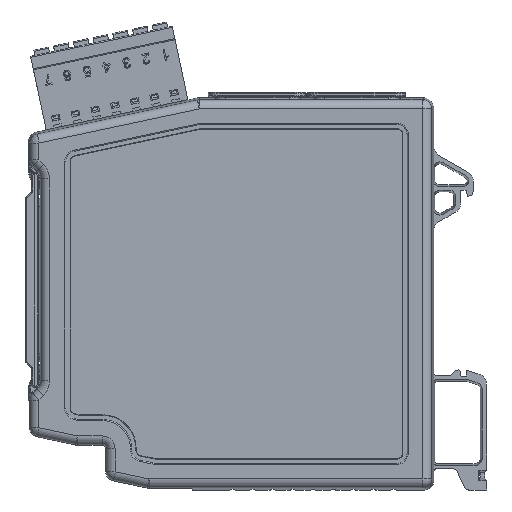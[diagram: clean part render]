
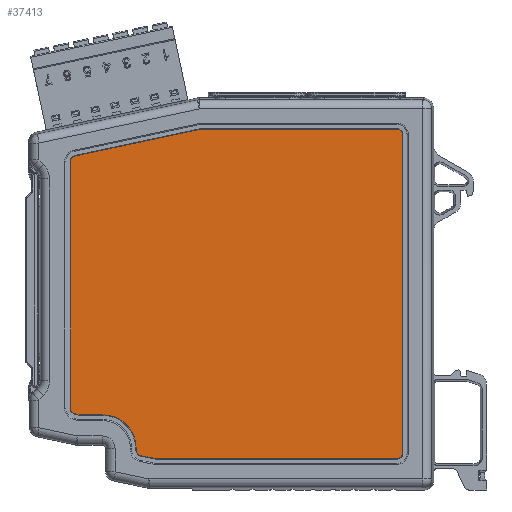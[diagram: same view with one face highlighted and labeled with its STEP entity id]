
A CAD part, front view. The second image highlights one B-rep face of the part: STEP entity #37413.
In plain terms, the highlighted planar face has unit normal (0, -1, 0).
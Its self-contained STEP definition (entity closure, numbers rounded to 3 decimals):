
#744=PLANE('',#43915);
#3310=LINE('',#64436,#7519);
#3311=LINE('',#64441,#7520);
#3314=LINE('',#64460,#7523);
#3315=LINE('',#64465,#7524);
#3318=LINE('',#64484,#7527);
#3319=LINE('',#64489,#7528);
#3322=LINE('',#64508,#7531);
#3323=LINE('',#64513,#7532);
#3325=LINE('',#64528,#7534);
#7519=VECTOR('',#49437,1000.);
#7520=VECTOR('',#49442,1000.);
#7523=VECTOR('',#49465,1000.);
#7524=VECTOR('',#49470,1000.);
#7527=VECTOR('',#49493,1000.);
#7528=VECTOR('',#49498,1000.);
#7531=VECTOR('',#49521,1000.);
#7532=VECTOR('',#49526,1000.);
#7534=VECTOR('',#49546,1000.);
#14448=ORIENTED_EDGE('',*,*,#23218,.T.);
#14449=ORIENTED_EDGE('',*,*,#23213,.T.);
#14450=ORIENTED_EDGE('',*,*,#23220,.T.);
#14451=ORIENTED_EDGE('',*,*,#23226,.T.);
#14452=ORIENTED_EDGE('',*,*,#23232,.T.);
#14453=ORIENTED_EDGE('',*,*,#23238,.T.);
#14454=ORIENTED_EDGE('',*,*,#23244,.T.);
#14455=ORIENTED_EDGE('',*,*,#23250,.T.);
#14456=ORIENTED_EDGE('',*,*,#23256,.T.);
#14457=ORIENTED_EDGE('',*,*,#23262,.T.);
#14458=ORIENTED_EDGE('',*,*,#23264,.T.);
#14459=ORIENTED_EDGE('',*,*,#23260,.T.);
#14460=ORIENTED_EDGE('',*,*,#23254,.T.);
#14461=ORIENTED_EDGE('',*,*,#23248,.T.);
#14462=ORIENTED_EDGE('',*,*,#23242,.T.);
#14463=ORIENTED_EDGE('',*,*,#23236,.T.);
#14464=ORIENTED_EDGE('',*,*,#23230,.T.);
#14465=ORIENTED_EDGE('',*,*,#23224,.T.);
#23213=EDGE_CURVE('',#28637,#28636,#31616,.F.);
#23218=EDGE_CURVE('',#28639,#28637,#3310,.F.);
#23220=EDGE_CURVE('',#28636,#28642,#3311,.F.);
#23224=EDGE_CURVE('',#28643,#28639,#31623,.T.);
#23226=EDGE_CURVE('',#28642,#28646,#31625,.F.);
#23230=EDGE_CURVE('',#28647,#28643,#3314,.F.);
#23232=EDGE_CURVE('',#28646,#28650,#3315,.F.);
#23236=EDGE_CURVE('',#28651,#28647,#31631,.F.);
#23238=EDGE_CURVE('',#28650,#28654,#31633,.F.);
#23242=EDGE_CURVE('',#28655,#28651,#3318,.F.);
#23244=EDGE_CURVE('',#28654,#28658,#3319,.F.);
#23248=EDGE_CURVE('',#28659,#28655,#31639,.F.);
#23250=EDGE_CURVE('',#28658,#28662,#31641,.F.);
#23254=EDGE_CURVE('',#28663,#28659,#3322,.F.);
#23256=EDGE_CURVE('',#28662,#28666,#3323,.F.);
#23260=EDGE_CURVE('',#28667,#28663,#31647,.F.);
#23262=EDGE_CURVE('',#28666,#28670,#31649,.F.);
#23264=EDGE_CURVE('',#28670,#28667,#3325,.F.);
#28636=VERTEX_POINT('',#64425);
#28637=VERTEX_POINT('',#64427);
#28639=VERTEX_POINT('',#64433);
#28642=VERTEX_POINT('',#64440);
#28643=VERTEX_POINT('',#64445);
#28646=VERTEX_POINT('',#64452);
#28647=VERTEX_POINT('',#64457);
#28650=VERTEX_POINT('',#64464);
#28651=VERTEX_POINT('',#64469);
#28654=VERTEX_POINT('',#64476);
#28655=VERTEX_POINT('',#64481);
#28658=VERTEX_POINT('',#64488);
#28659=VERTEX_POINT('',#64493);
#28662=VERTEX_POINT('',#64500);
#28663=VERTEX_POINT('',#64505);
#28666=VERTEX_POINT('',#64512);
#28667=VERTEX_POINT('',#64517);
#28670=VERTEX_POINT('',#64524);
#31616=CIRCLE('',#43840,1.1);
#31623=CIRCLE('',#43850,6.3);
#31625=CIRCLE('',#43853,1.1);
#31631=CIRCLE('',#43862,1.1);
#31633=CIRCLE('',#43865,1.1);
#31639=CIRCLE('',#43874,1.1);
#31641=CIRCLE('',#43877,1.1);
#31647=CIRCLE('',#43886,1.1);
#31649=CIRCLE('',#43889,1.1);
#33174=EDGE_LOOP('',(#14448,#14449,#14450,#14451,#14452,#14453,#14454,#14455,
#14456,#14457,#14458,#14459,#14460,#14461,#14462,#14463,#14464,#14465));
#35332=FACE_BOUND('',#33174,.T.);
#37413=ADVANCED_FACE('',(#35332),#744,.F.);
#43840=AXIS2_PLACEMENT_3D('',#64426,#49426,#49427);
#43850=AXIS2_PLACEMENT_3D('',#64448,#49450,#49451);
#43853=AXIS2_PLACEMENT_3D('',#64453,#49456,#49457);
#43862=AXIS2_PLACEMENT_3D('',#64472,#49478,#49479);
#43865=AXIS2_PLACEMENT_3D('',#64477,#49484,#49485);
#43874=AXIS2_PLACEMENT_3D('',#64496,#49506,#49507);
#43877=AXIS2_PLACEMENT_3D('',#64501,#49512,#49513);
#43886=AXIS2_PLACEMENT_3D('',#64520,#49534,#49535);
#43889=AXIS2_PLACEMENT_3D('',#64525,#49540,#49541);
#43915=AXIS2_PLACEMENT_3D('',#64594,#49618,#49619);
#49426=DIRECTION('',(0.,1.,0.));
#49427=DIRECTION('',(0.,0.,1.));
#49437=DIRECTION('',(0.,0.,1.));
#49442=DIRECTION('',(-0.978,0.,0.208));
#49450=DIRECTION('',(0.,1.,0.));
#49451=DIRECTION('',(0.,0.,1.));
#49456=DIRECTION('',(0.,1.,0.));
#49457=DIRECTION('',(0.,0.,1.));
#49465=DIRECTION('',(-1.,0.,0.));
#49470=DIRECTION('',(-1.,0.,0.));
#49478=DIRECTION('',(0.,1.,0.));
#49479=DIRECTION('',(0.,0.,1.));
#49484=DIRECTION('',(0.,1.,0.));
#49485=DIRECTION('',(0.,0.,1.));
#49493=DIRECTION('',(-0.978,0.,0.208));
#49498=DIRECTION('',(0.,0.,-1.));
#49506=DIRECTION('',(0.,1.,0.));
#49507=DIRECTION('',(0.,0.,1.));
#49512=DIRECTION('',(0.,1.,0.));
#49513=DIRECTION('',(0.,0.,1.));
#49521=DIRECTION('',(0.,0.,1.));
#49526=DIRECTION('',(1.,0.,0.));
#49534=DIRECTION('',(0.,1.,0.));
#49535=DIRECTION('',(0.,0.,1.));
#49540=DIRECTION('',(0.,1.,0.));
#49541=DIRECTION('',(0.,0.,1.));
#49546=DIRECTION('',(0.978,0.,0.208));
#49618=DIRECTION('',(0.,1.,0.));
#49619=DIRECTION('',(0.,0.,1.));
#64425=CARTESIAN_POINT('',(-65.329,-12.9,16.506));
#64426=CARTESIAN_POINT('',(-65.1,-12.9,17.582));
#64427=CARTESIAN_POINT('',(-66.2,-12.9,17.582));
#64433=CARTESIAN_POINT('',(-66.2,-12.9,17.9));
#64436=CARTESIAN_POINT('',(-66.2,-12.9,17.582));
#64440=CARTESIAN_POINT('',(-62.589,-12.9,15.924));
#64441=CARTESIAN_POINT('',(-62.589,-12.9,15.924));
#64445=CARTESIAN_POINT('',(-72.5,-12.9,24.2));
#64448=CARTESIAN_POINT('',(-72.5,-12.9,17.9));
#64452=CARTESIAN_POINT('',(-62.36,-12.9,15.9));
#64453=CARTESIAN_POINT('',(-62.36,-12.9,17.));
#64457=CARTESIAN_POINT('',(-76.76,-12.9,24.2));
#64460=CARTESIAN_POINT('',(-72.5,-12.9,24.2));
#64464=CARTESIAN_POINT('',(-17.,-12.9,15.9));
#64465=CARTESIAN_POINT('',(-17.,-12.9,15.9));
#64469=CARTESIAN_POINT('',(-76.989,-12.9,24.224));
#64472=CARTESIAN_POINT('',(-76.76,-12.9,25.3));
#64476=CARTESIAN_POINT('',(-15.9,-12.9,17.));
#64477=CARTESIAN_POINT('',(-17.,-12.9,17.));
#64481=CARTESIAN_POINT('',(-77.729,-12.9,24.381));
#64484=CARTESIAN_POINT('',(-76.989,-12.9,24.224));
#64488=CARTESIAN_POINT('',(-15.9,-12.9,77.1));
#64489=CARTESIAN_POINT('',(-15.9,-12.9,77.1));
#64493=CARTESIAN_POINT('',(-78.6,-12.9,25.457));
#64496=CARTESIAN_POINT('',(-77.5,-12.9,25.457));
#64500=CARTESIAN_POINT('',(-17.,-12.9,78.2));
#64501=CARTESIAN_POINT('',(-17.,-12.9,77.1));
#64505=CARTESIAN_POINT('',(-78.6,-12.9,72.054));
#64508=CARTESIAN_POINT('',(-78.6,-12.9,25.457));
#64512=CARTESIAN_POINT('',(-53.76,-12.9,78.2));
#64513=CARTESIAN_POINT('',(-53.76,-12.9,78.2));
#64517=CARTESIAN_POINT('',(-77.729,-12.9,73.13));
#64520=CARTESIAN_POINT('',(-77.5,-12.9,72.054));
#64524=CARTESIAN_POINT('',(-53.989,-12.9,78.176));
#64525=CARTESIAN_POINT('',(-53.76,-12.9,77.1));
#64528=CARTESIAN_POINT('',(-77.729,-12.9,73.13));
#64594=CARTESIAN_POINT('',(-53.76,-12.9,77.1));
